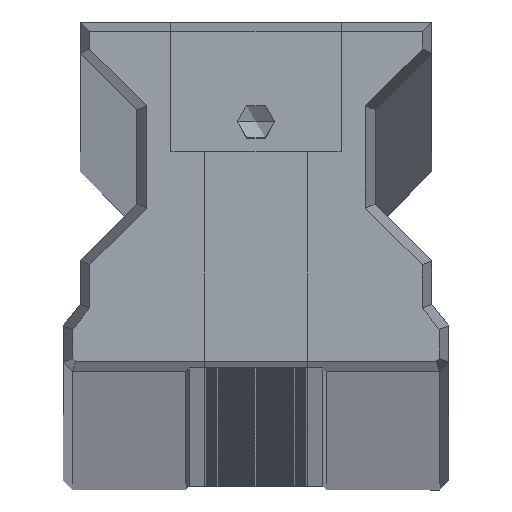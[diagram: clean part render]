
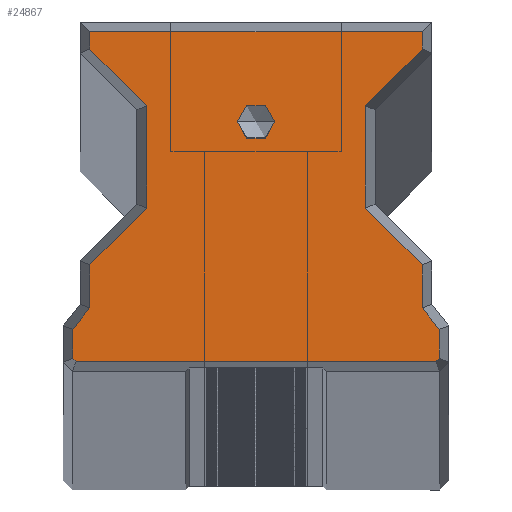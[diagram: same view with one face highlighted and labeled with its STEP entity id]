
A CAD part, top view. The second image highlights one B-rep face of the part: STEP entity #24867.
In plain terms, the highlighted planar face has unit normal (0, 0, 1).
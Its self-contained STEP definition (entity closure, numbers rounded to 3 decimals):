
#9098=CARTESIAN_POINT('',(0.,22.,0.));
#9099=DIRECTION('',(0.,0.,1.));
#9100=DIRECTION('',(-1.,0.,0.));
#9101=AXIS2_PLACEMENT_3D('',#9098,#9099,#9100);
#9103=CARTESIAN_POINT('',(0.,22.,0.));
#9104=DIRECTION('',(0.,0.,1.));
#9105=DIRECTION('',(1.,0.,0.));
#9106=AXIS2_PLACEMENT_3D('',#9103,#9104,#9105);
#9108=DIRECTION('',(1.,0.,0.));
#9109=VECTOR('',#9108,31.696);
#9110=CARTESIAN_POINT('',(-15.848,0.85,0.));
#9111=LINE('',#9110,#9109);
#9112=DIRECTION('',(0.707,-0.707,0.));
#9113=VECTOR('',#9112,0.427);
#9114=CARTESIAN_POINT('',(-16.15,1.152,0.));
#9115=LINE('',#9114,#9113);
#9116=DIRECTION('',(0.,-1.,0.));
#9117=VECTOR('',#9116,2.553);
#9118=CARTESIAN_POINT('',(-16.15,3.705,0.));
#9119=LINE('',#9118,#9117);
#9120=DIRECTION('',(0.62,0.785,0.));
#9121=VECTOR('',#9120,2.421);
#9122=CARTESIAN_POINT('',(-16.15,3.705,0.));
#9123=LINE('',#9122,#9121);
#9124=DIRECTION('',(0.,-1.,0.));
#9125=VECTOR('',#9124,3.788);
#9126=CARTESIAN_POINT('',(-14.65,9.393,0.));
#9127=LINE('',#9126,#9125);
#9128=DIRECTION('',(-0.707,-0.707,0.));
#9129=VECTOR('',#9128,7.071);
#9130=CARTESIAN_POINT('',(-9.65,14.393,0.));
#9131=LINE('',#9130,#9129);
#9132=DIRECTION('',(0.,-1.,0.));
#9133=VECTOR('',#9132,9.013);
#9134=CARTESIAN_POINT('',(-9.65,23.407,0.));
#9135=LINE('',#9134,#9133);
#9136=DIRECTION('',(0.707,-0.707,0.));
#9137=VECTOR('',#9136,7.071);
#9138=CARTESIAN_POINT('',(-14.65,28.407,0.));
#9139=LINE('',#9138,#9137);
#9140=DIRECTION('',(0.,-1.,0.));
#9141=VECTOR('',#9140,1.543);
#9142=CARTESIAN_POINT('',(-14.65,29.95,0.));
#9143=LINE('',#9142,#9141);
#9144=DIRECTION('',(-1.,0.,0.));
#9145=VECTOR('',#9144,29.3);
#9146=CARTESIAN_POINT('',(14.65,29.95,0.));
#9147=LINE('',#9146,#9145);
#9148=DIRECTION('',(0.,1.,0.));
#9149=VECTOR('',#9148,1.543);
#9150=CARTESIAN_POINT('',(14.65,28.407,0.));
#9151=LINE('',#9150,#9149);
#9152=DIRECTION('',(-0.707,-0.707,0.));
#9153=VECTOR('',#9152,7.071);
#9154=CARTESIAN_POINT('',(14.65,28.407,0.));
#9155=LINE('',#9154,#9153);
#9156=DIRECTION('',(0.,1.,0.));
#9157=VECTOR('',#9156,9.013);
#9158=CARTESIAN_POINT('',(9.65,14.393,0.));
#9159=LINE('',#9158,#9157);
#9160=DIRECTION('',(-0.707,0.707,0.));
#9161=VECTOR('',#9160,7.071);
#9162=CARTESIAN_POINT('',(14.65,9.393,0.));
#9163=LINE('',#9162,#9161);
#9164=DIRECTION('',(0.,1.,0.));
#9165=VECTOR('',#9164,3.788);
#9166=CARTESIAN_POINT('',(14.65,5.605,0.));
#9167=LINE('',#9166,#9165);
#9168=DIRECTION('',(-0.62,0.785,0.));
#9169=VECTOR('',#9168,2.421);
#9170=CARTESIAN_POINT('',(16.15,3.705,0.));
#9171=LINE('',#9170,#9169);
#9172=DIRECTION('',(0.,1.,0.));
#9173=VECTOR('',#9172,2.553);
#9174=CARTESIAN_POINT('',(16.15,1.152,0.));
#9175=LINE('',#9174,#9173);
#9176=DIRECTION('',(0.707,0.707,0.));
#9177=VECTOR('',#9176,0.427);
#9178=CARTESIAN_POINT('',(15.848,0.85,0.));
#9179=LINE('',#9178,#9177);
#9396=CARTESIAN_POINT('',(-1.65,22.,0.));
#9397=VERTEX_POINT('',#9396);
#9398=CARTESIAN_POINT('',(1.65,22.,0.));
#9399=VERTEX_POINT('',#9398);
#9602=CARTESIAN_POINT('',(-15.848,0.85,0.));
#9603=CARTESIAN_POINT('',(15.848,0.85,0.));
#9604=VERTEX_POINT('',#9602);
#9605=VERTEX_POINT('',#9603);
#9606=CARTESIAN_POINT('',(16.15,1.152,0.));
#9607=VERTEX_POINT('',#9606);
#9608=CARTESIAN_POINT('',(16.15,3.705,0.));
#9609=VERTEX_POINT('',#9608);
#9610=CARTESIAN_POINT('',(14.65,5.605,0.));
#9611=VERTEX_POINT('',#9610);
#9612=CARTESIAN_POINT('',(14.65,9.393,0.));
#9613=VERTEX_POINT('',#9612);
#9614=CARTESIAN_POINT('',(9.65,14.393,0.));
#9615=VERTEX_POINT('',#9614);
#9616=CARTESIAN_POINT('',(9.65,23.407,0.));
#9617=VERTEX_POINT('',#9616);
#9618=CARTESIAN_POINT('',(14.65,28.407,0.));
#9619=VERTEX_POINT('',#9618);
#9620=CARTESIAN_POINT('',(14.65,29.95,0.));
#9621=VERTEX_POINT('',#9620);
#9622=CARTESIAN_POINT('',(-14.65,29.95,0.));
#9623=VERTEX_POINT('',#9622);
#9624=CARTESIAN_POINT('',(-14.65,28.407,0.));
#9625=VERTEX_POINT('',#9624);
#9626=CARTESIAN_POINT('',(-9.65,23.407,0.));
#9627=VERTEX_POINT('',#9626);
#9628=CARTESIAN_POINT('',(-9.65,14.393,0.));
#9629=VERTEX_POINT('',#9628);
#9630=CARTESIAN_POINT('',(-14.65,9.393,0.));
#9631=VERTEX_POINT('',#9630);
#9632=CARTESIAN_POINT('',(-14.65,5.605,0.));
#9633=VERTEX_POINT('',#9632);
#9634=CARTESIAN_POINT('',(-16.15,3.705,0.));
#9635=VERTEX_POINT('',#9634);
#11938=CARTESIAN_POINT('',(-16.15,1.152,0.));
#11939=VERTEX_POINT('',#11938);
#24819=CARTESIAN_POINT('',(0.,0.,0.));
#24820=DIRECTION('',(0.,0.,1.));
#24821=DIRECTION('',(1.,0.,0.));
#24822=AXIS2_PLACEMENT_3D('',#24819,#24820,#24821);
#24823=PLANE('',#24822);
#24825=ORIENTED_EDGE('',*,*,#24824,.F.);
#24827=ORIENTED_EDGE('',*,*,#24826,.F.);
#24829=ORIENTED_EDGE('',*,*,#24828,.F.);
#24831=ORIENTED_EDGE('',*,*,#24830,.T.);
#24833=ORIENTED_EDGE('',*,*,#24832,.F.);
#24835=ORIENTED_EDGE('',*,*,#24834,.F.);
#24837=ORIENTED_EDGE('',*,*,#24836,.F.);
#24838=ORIENTED_EDGE('',*,*,#24809,.F.);
#24840=ORIENTED_EDGE('',*,*,#24839,.F.);
#24842=ORIENTED_EDGE('',*,*,#24841,.F.);
#24844=ORIENTED_EDGE('',*,*,#24843,.F.);
#24846=ORIENTED_EDGE('',*,*,#24845,.T.);
#24848=ORIENTED_EDGE('',*,*,#24847,.F.);
#24850=ORIENTED_EDGE('',*,*,#24849,.F.);
#24852=ORIENTED_EDGE('',*,*,#24851,.F.);
#24854=ORIENTED_EDGE('',*,*,#24853,.F.);
#24856=ORIENTED_EDGE('',*,*,#24855,.F.);
#24858=ORIENTED_EDGE('',*,*,#24857,.F.);
#24859=EDGE_LOOP('',(#24825,#24827,#24829,#24831,#24833,#24835,#24837,#24838,
#24840,#24842,#24844,#24846,#24848,#24850,#24852,#24854,#24856,#24858));
#24860=FACE_OUTER_BOUND('',#24859,.F.);
#24862=ORIENTED_EDGE('',*,*,#24861,.T.);
#24864=ORIENTED_EDGE('',*,*,#24863,.T.);
#24865=EDGE_LOOP('',(#24862,#24864));
#24866=FACE_BOUND('',#24865,.F.);
#9102=CIRCLE('',#9101,1.65);
#9107=CIRCLE('',#9106,1.65);
#24809=EDGE_CURVE('',#9625,#9627,#9139,.T.);
#24824=EDGE_CURVE('',#9604,#9605,#9111,.T.);
#24826=EDGE_CURVE('',#11939,#9604,#9115,.T.);
#24828=EDGE_CURVE('',#9635,#11939,#9119,.T.);
#24830=EDGE_CURVE('',#9635,#9633,#9123,.T.);
#24832=EDGE_CURVE('',#9631,#9633,#9127,.T.);
#24834=EDGE_CURVE('',#9629,#9631,#9131,.T.);
#24836=EDGE_CURVE('',#9627,#9629,#9135,.T.);
#24839=EDGE_CURVE('',#9623,#9625,#9143,.T.);
#24841=EDGE_CURVE('',#9621,#9623,#9147,.T.);
#24843=EDGE_CURVE('',#9619,#9621,#9151,.T.);
#24845=EDGE_CURVE('',#9619,#9617,#9155,.T.);
#24847=EDGE_CURVE('',#9615,#9617,#9159,.T.);
#24849=EDGE_CURVE('',#9613,#9615,#9163,.T.);
#24851=EDGE_CURVE('',#9611,#9613,#9167,.T.);
#24853=EDGE_CURVE('',#9609,#9611,#9171,.T.);
#24855=EDGE_CURVE('',#9607,#9609,#9175,.T.);
#24857=EDGE_CURVE('',#9605,#9607,#9179,.T.);
#24861=EDGE_CURVE('',#9397,#9399,#9102,.T.);
#24863=EDGE_CURVE('',#9399,#9397,#9107,.T.);
#24867=ADVANCED_FACE('',(#24860,#24866),#24823,.T.);
